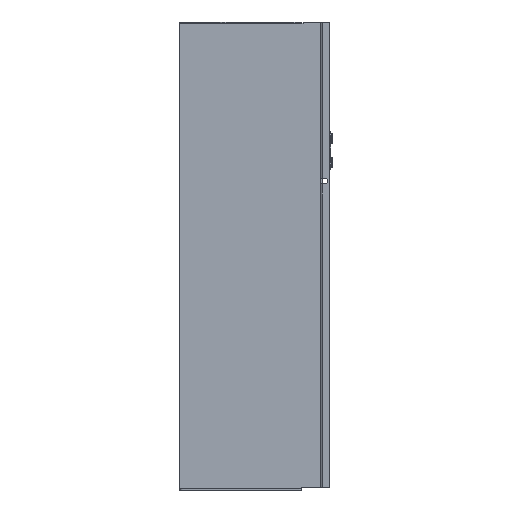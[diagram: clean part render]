
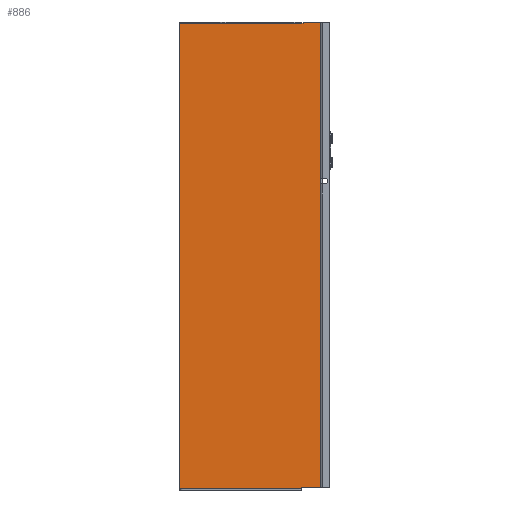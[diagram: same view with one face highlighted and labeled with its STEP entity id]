
A CAD part, left-side view. The second image highlights one B-rep face of the part: STEP entity #886.
In plain terms, the highlighted planar face has unit normal (-1, 0, 0).
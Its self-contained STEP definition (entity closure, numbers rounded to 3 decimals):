
#234 = CARTESIAN_POINT ( 'NONE',  ( 0., 18.3, 245. ) ) ;
#663 = DIRECTION ( 'NONE',  ( 0., 0., -1. ) ) ;
#831 = CARTESIAN_POINT ( 'NONE',  ( 0., 0., -244. ) ) ;
#853 = EDGE_CURVE ( 'NONE', #1275, #7578, #894, .T. ) ;
#886 = ADVANCED_FACE ( 'NONE', ( #4070 ), #11014, .T. ) ;
#894 = LINE ( 'NONE', #15277, #14589 ) ;
#1008 = DIRECTION ( 'NONE',  ( 0., 0., -1. ) ) ;
#1043 = VERTEX_POINT ( 'NONE', #9511 ) ;
#1243 = CIRCLE ( 'NONE', #7299, 0.2 ) ;
#1275 = VERTEX_POINT ( 'NONE', #234 ) ;
#1374 = DIRECTION ( 'NONE',  ( 0., -1., 0. ) ) ;
#1491 = CARTESIAN_POINT ( 'NONE',  ( 0., 18.7, 243.5 ) ) ;
#1562 = LINE ( 'NONE', #4240, #15698 ) ;
#1633 = CIRCLE ( 'NONE', #3306, 0.2 ) ;
#2082 = ORIENTED_EDGE ( 'NONE', *, *, #13500, .T. ) ;
#2114 = ORIENTED_EDGE ( 'NONE', *, *, #8093, .F. ) ;
#2137 = VECTOR ( 'NONE', #13395, 1000. ) ;
#2260 = CARTESIAN_POINT ( 'NONE',  ( 0., 18.3, 244.8 ) ) ;
#2272 = DIRECTION ( 'NONE',  ( 0., 1., 0. ) ) ;
#2284 = LINE ( 'NONE', #8832, #16383 ) ;
#2362 = EDGE_CURVE ( 'NONE', #8986, #3631, #12854, .T. ) ;
#2956 = EDGE_CURVE ( 'NONE', #9954, #15163, #1243, .T. ) ;
#2982 = ORIENTED_EDGE ( 'NONE', *, *, #2362, .F. ) ;
#3306 = AXIS2_PLACEMENT_3D ( 'NONE', #2260, #11837, #3644 ) ;
#3631 = VERTEX_POINT ( 'NONE', #12799 ) ;
#3644 = DIRECTION ( 'NONE',  ( 0., 0., -1. ) ) ;
#3737 = CARTESIAN_POINT ( 'NONE',  ( 0., 20.5, 243.7 ) ) ;
#3738 = VECTOR ( 'NONE', #1374, 1000. ) ;
#3794 = VERTEX_POINT ( 'NONE', #831 ) ;
#4070 = FACE_OUTER_BOUND ( 'NONE', #6732, .T. ) ;
#4240 = CARTESIAN_POINT ( 'NONE',  ( 0., 148., 245. ) ) ;
#4246 = VECTOR ( 'NONE', #2272, 1000. ) ;
#4308 = CARTESIAN_POINT ( 'NONE',  ( 0., 20.5, -244. ) ) ;
#4525 = CARTESIAN_POINT ( 'NONE',  ( 0., 20.5, 243.8 ) ) ;
#4865 = CARTESIAN_POINT ( 'NONE',  ( 0., 20.3, 243.5 ) ) ;
#5337 = ORIENTED_EDGE ( 'NONE', *, *, #2956, .F. ) ;
#5609 = DIRECTION ( 'NONE',  ( 0., 0., -1. ) ) ;
#5689 = ORIENTED_EDGE ( 'NONE', *, *, #7756, .F. ) ;
#5957 = ORIENTED_EDGE ( 'NONE', *, *, #853, .F. ) ;
#6174 = LINE ( 'NONE', #4308, #9341 ) ;
#6249 = EDGE_CURVE ( 'NONE', #1043, #1275, #1633, .T. ) ;
#6334 = ORIENTED_EDGE ( 'NONE', *, *, #6397, .T. ) ;
#6355 = CARTESIAN_POINT ( 'NONE',  ( 0., 20.5, -245. ) ) ;
#6397 = EDGE_CURVE ( 'NONE', #1043, #11458, #7202, .T. ) ;
#6732 = EDGE_LOOP ( 'NONE', ( #6334, #2114, #2082, #5337, #15105, #9867, #11233, #2982, #5689, #11606, #7879, #5957, #14936 ) ) ;
#6907 = DIRECTION ( 'NONE',  ( -1., 0., 0. ) ) ;
#7162 = DIRECTION ( 'NONE',  ( -1., 0., 0. ) ) ;
#7202 = LINE ( 'NONE', #9422, #10401 ) ;
#7280 = VECTOR ( 'NONE', #8369, 1000. ) ;
#7299 = AXIS2_PLACEMENT_3D ( 'NONE', #15357, #7162, #16732 ) ;
#7578 = VERTEX_POINT ( 'NONE', #12841 ) ;
#7756 = EDGE_CURVE ( 'NONE', #11972, #8986, #13470, .T. ) ;
#7879 = ORIENTED_EDGE ( 'NONE', *, *, #10509, .F. ) ;
#8093 = EDGE_CURVE ( 'NONE', #13462, #11458, #16041, .T. ) ;
#8311 = CARTESIAN_POINT ( 'NONE',  ( 0., 20.5, -244. ) ) ;
#8369 = DIRECTION ( 'NONE',  ( 0., 1., 0. ) ) ;
#8575 = CARTESIAN_POINT ( 'NONE',  ( 0., 18.5, 243.7 ) ) ;
#8832 = CARTESIAN_POINT ( 'NONE',  ( 0., 0., 245. ) ) ;
#8986 = VERTEX_POINT ( 'NONE', #13955 ) ;
#9202 = DIRECTION ( 'NONE',  ( -1., 0., 0. ) ) ;
#9341 = VECTOR ( 'NONE', #13909, 1000. ) ;
#9422 = CARTESIAN_POINT ( 'NONE',  ( 0., 18.5, 245. ) ) ;
#9499 = DIRECTION ( 'NONE',  ( 0., 0., -1. ) ) ;
#9511 = CARTESIAN_POINT ( 'NONE',  ( 0., 18.5, 244.8 ) ) ;
#9646 = CARTESIAN_POINT ( 'NONE',  ( 0., 0., 245. ) ) ;
#9867 = ORIENTED_EDGE ( 'NONE', *, *, #11163, .F. ) ;
#9954 = VERTEX_POINT ( 'NONE', #3737 ) ;
#10063 = CARTESIAN_POINT ( 'NONE',  ( 0., 148., 243.8 ) ) ;
#10401 = VECTOR ( 'NONE', #17609, 1000. ) ;
#10509 = EDGE_CURVE ( 'NONE', #7578, #3794, #2284, .T. ) ;
#10716 = VECTOR ( 'NONE', #9499, 1000. ) ;
#11014 = PLANE ( 'NONE',  #12401 ) ;
#11163 = EDGE_CURVE ( 'NONE', #11514, #12516, #14261, .T. ) ;
#11233 = ORIENTED_EDGE ( 'NONE', *, *, #17450, .T. ) ;
#11288 = CARTESIAN_POINT ( 'NONE',  ( 0., 20.5, 243.5 ) ) ;
#11326 = LINE ( 'NONE', #11288, #7280 ) ;
#11458 = VERTEX_POINT ( 'NONE', #8575 ) ;
#11514 = VERTEX_POINT ( 'NONE', #10063 ) ;
#11606 = ORIENTED_EDGE ( 'NONE', *, *, #15011, .T. ) ;
#11837 = DIRECTION ( 'NONE',  ( 1., 0., 0. ) ) ;
#11972 = VERTEX_POINT ( 'NONE', #8311 ) ;
#12019 = CARTESIAN_POINT ( 'NONE',  ( 0., 20.5, -244. ) ) ;
#12401 = AXIS2_PLACEMENT_3D ( 'NONE', #9646, #6907, #5609 ) ;
#12516 = VERTEX_POINT ( 'NONE', #4525 ) ;
#12799 = CARTESIAN_POINT ( 'NONE',  ( 0., 148., -245. ) ) ;
#12841 = CARTESIAN_POINT ( 'NONE',  ( 0., 0., 245. ) ) ;
#12854 = LINE ( 'NONE', #6355, #4246 ) ;
#12988 = EDGE_CURVE ( 'NONE', #12516, #9954, #14396, .T. ) ;
#13395 = DIRECTION ( 'NONE',  ( 0., 0., -1. ) ) ;
#13462 = VERTEX_POINT ( 'NONE', #1491 ) ;
#13470 = LINE ( 'NONE', #12019, #2137 ) ;
#13500 = EDGE_CURVE ( 'NONE', #13462, #15163, #11326, .T. ) ;
#13560 = AXIS2_PLACEMENT_3D ( 'NONE', #17384, #9202, #1008 ) ;
#13808 = DIRECTION ( 'NONE',  ( 0., 0., -1. ) ) ;
#13909 = DIRECTION ( 'NONE',  ( 0., -1., 0. ) ) ;
#13955 = CARTESIAN_POINT ( 'NONE',  ( 0., 20.5, -245. ) ) ;
#14261 = LINE ( 'NONE', #15065, #3738 ) ;
#14396 = LINE ( 'NONE', #17719, #10716 ) ;
#14589 = VECTOR ( 'NONE', #15222, 1000. ) ;
#14936 = ORIENTED_EDGE ( 'NONE', *, *, #6249, .F. ) ;
#15011 = EDGE_CURVE ( 'NONE', #11972, #3794, #6174, .T. ) ;
#15065 = CARTESIAN_POINT ( 'NONE',  ( 0., 148., 243.8 ) ) ;
#15105 = ORIENTED_EDGE ( 'NONE', *, *, #12988, .F. ) ;
#15163 = VERTEX_POINT ( 'NONE', #4865 ) ;
#15222 = DIRECTION ( 'NONE',  ( 0., -1., 0. ) ) ;
#15277 = CARTESIAN_POINT ( 'NONE',  ( 0., 0., 245. ) ) ;
#15357 = CARTESIAN_POINT ( 'NONE',  ( 0., 20.3, 243.7 ) ) ;
#15698 = VECTOR ( 'NONE', #13808, 1000. ) ;
#16041 = CIRCLE ( 'NONE', #13560, 0.2 ) ;
#16383 = VECTOR ( 'NONE', #663, 1000. ) ;
#16732 = DIRECTION ( 'NONE',  ( 0., 0., -1. ) ) ;
#17384 = CARTESIAN_POINT ( 'NONE',  ( 0., 18.7, 243.7 ) ) ;
#17450 = EDGE_CURVE ( 'NONE', #11514, #3631, #1562, .T. ) ;
#17609 = DIRECTION ( 'NONE',  ( 0., 0., -1. ) ) ;
#17719 = CARTESIAN_POINT ( 'NONE',  ( 0., 20.5, 243.8 ) ) ;
